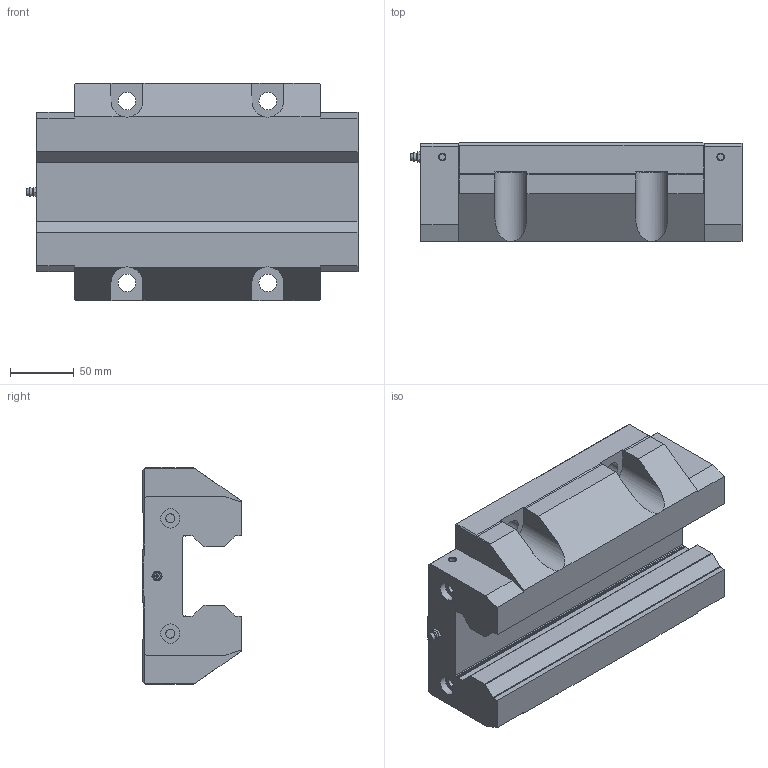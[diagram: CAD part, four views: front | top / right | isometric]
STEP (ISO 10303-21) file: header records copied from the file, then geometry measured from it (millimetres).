
FILE_DESCRIPTION(/* description */ ('STEP AP214'),/* implementation_level */ '2;1');
FILE_NAME(/* name */ 'ERG65P6LCC1N0______CAD_NO_(A-MT61)',/* time_stamp */ '2026-05-18T11:19:24+02:00',/* author */ ('License CC BY-ND 4.0'),/* organization */ ('CADENAS'),/* preprocessor_version */ 'ST-DEVELOPER v20',/* originating_system */ 'PARTsolutions',/* authorisation */ ' ');
FILE_SCHEMA (('AUTOMOTIVE_DESIGN {1 0 10303 214 3 1 1}'));
Length unit declared in the file: millimetre
Products named in the file (3): ERG65P6LCC1N0______CAD_NO_(A-MT61); ERG65LC01 Slider; hsr_ftht_A-M6F_grease_nipple_joint
Assembly tree (2 placements, depth 2):
  ERG65P6LCC1N0______CAD_NO_(A-MT61)
    ERG65LC01 Slider
    hsr_ftht_A-M6F_grease_nipple_joint
Bounding box: 259.41 x 77 x 170 mm (x, y, z)
Volume: 2149264.9 mm3; surface area: 171822.9 mm2
Topology: 2 solids, 2 shells, 188 faces, 477 edges, 312 vertices
Faces by surface type: plane 113, cylinder 51, cone 21, sphere 2, torus 1
Full cylindrical faces by diameter (mm): 4.917 x6, 6 x1, 7 x4, 10.2 x2, 13.835 x6, 15 x4
Entity records: 5527 total; most frequent: CARTESIAN_POINT 1005, DIRECTION 924, ORIENTED_EDGE 864, EDGE_CURVE 432, AXIS2_PLACEMENT_3D 325, VERTEX_POINT 308, LINE 274, VECTOR 274
